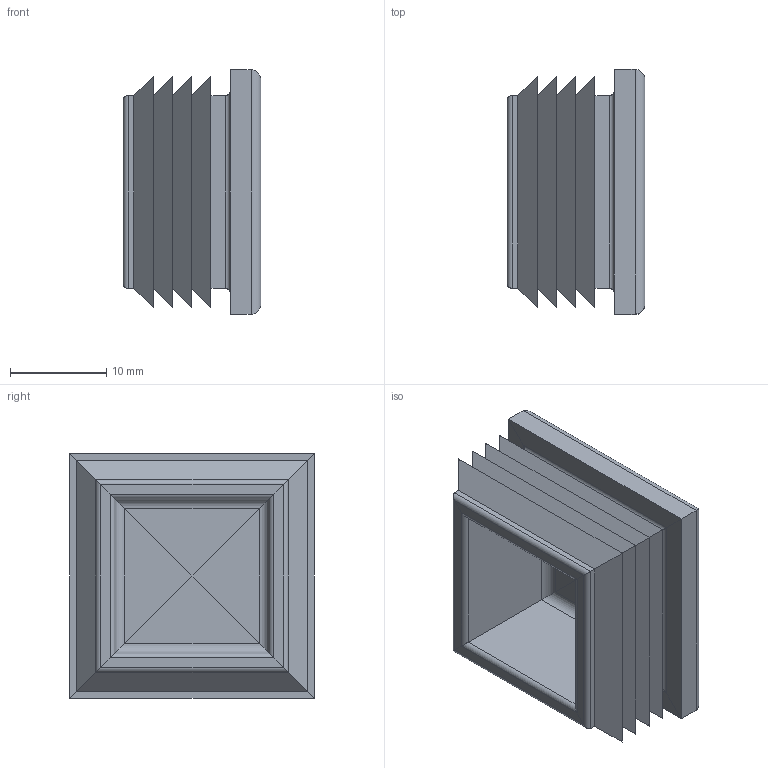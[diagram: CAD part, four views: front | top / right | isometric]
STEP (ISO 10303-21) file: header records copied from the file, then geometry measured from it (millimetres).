
FILE_DESCRIPTION(/* description */ ('(C) Elphel, Inc. 2012. Licensed under CERN OHL v.1.1 or later, see http://ohwr.org/cernohl'),/* implementation_level */ '2;1');
FILE_NAME(/* name */ '0353-30-50',/* time_stamp */ '2012-06-11T13:18:59-06:00',/* author */ (''),/* organization */ ('Elphel, Inc'),/* preprocessor_version */ 'ST-DEVELOPER v12',/* originating_system */ 'VariCAD 2012-1.04; kernel version (20100102)',/* authorisation */ '');
FILE_SCHEMA (('AUTOMOTIVE_DESIGN'));
Length unit declared in the file: millimetre
Products named in the file (1): Part
Bounding box: 14.29 x 25.4 x 25.4 mm (x, y, z)
Volume: 4019 mm3; surface area: 4227.8 mm2
Topology: 1 solids, 1 shells, 84 faces, 164 edges, 82 vertices
Faces by surface type: plane 64, cylinder 20
Entity records: 2199 total; most frequent: CARTESIAN_POINT 552, ORIENTED_EDGE 328, DIRECTION 316, EDGE_CURVE 164, LINE 144, VECTOR 144, AXIS2_PLACEMENT_3D 86, ADVANCED_FACE 84
